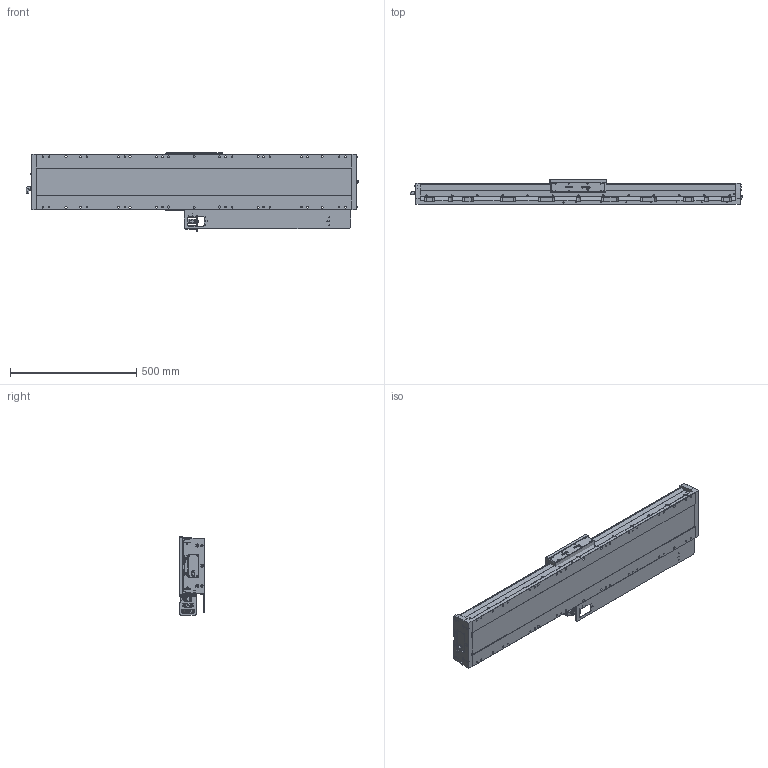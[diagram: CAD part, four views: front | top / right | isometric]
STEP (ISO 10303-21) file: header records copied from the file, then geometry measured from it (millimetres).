
FILE_DESCRIPTION(/* description */ (''),/* implementation_level */ '2;1');
FILE_NAME(/* name */ 'U:\KONSTRUKTORIAI\DOKUMENTACIJA\8\8MTL220\8MTL220-1000\Inventor\MOVABLE\8MTL220-1000 SB Movable.stp',/* time_stamp */ '2020-05-26T11:55:27+03:00',/* author */ ('dsgn36'),/* organization */ (''),/* preprocessor_version */ 'ST-DEVELOPER v15.2',/* originating_system */ 'Autodesk Inventor 2014',/* authorisation */ '');
FILE_SCHEMA (('CONFIG_CONTROL_DESIGN'));
Products named in the file (3): Base; Platform with cable management parts; 8MTL220-1000 SB Movable
Bounding box: 1316.34 x 100 x 310 mm (x, y, z)
Volume: 23587468.2 mm3; surface area: 1184840 mm2
Topology: 2 solids, 7 shells, 4269 faces, 11099 edges, 7238 vertices
Faces by surface type: plane 2496, cylinder 1005, bspline 419, cone 209, torus 93, sphere 47
Full cylindrical faces by diameter (mm): 1 x54, 2 x2, 2.013 x2, 2.459 x16, 2.5 x6, 2.54 x2, 2.794 x4, 2.8 x1, 3 x67, 3.2 x6, 3.242 x13, 3.251 x2, 3.302 x6, 3.5 x9, 3.505 x4, 4 x4, 4.5 x2, 4.6 x2, 4.917 x61, 5.08 x2, 5.28 x1, 5.7 x27, 6 x1, 6.647 x22, 7 x29, 7.4 x1, 7.6 x39, 8 x10, 8.566 x1, 9 x6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
Entity records: 137514 total; most frequent: CARTESIAN_POINT 40082, ORIENTED_EDGE 20252, DIRECTION 18689, EDGE_CURVE 10125, VERTEX_POINT 6940, AXIS2_PLACEMENT_3D 6360, LINE 5969, VECTOR 5969
